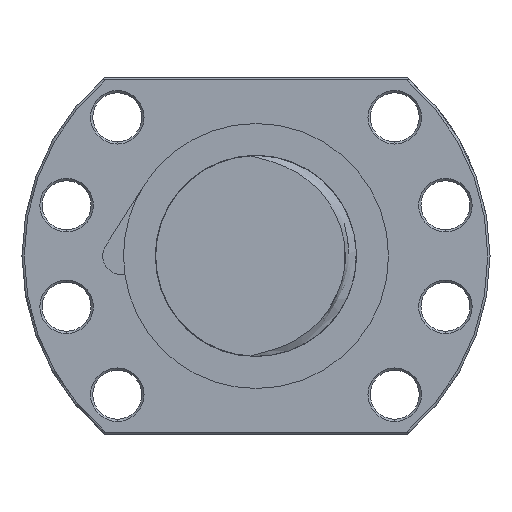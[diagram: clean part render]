
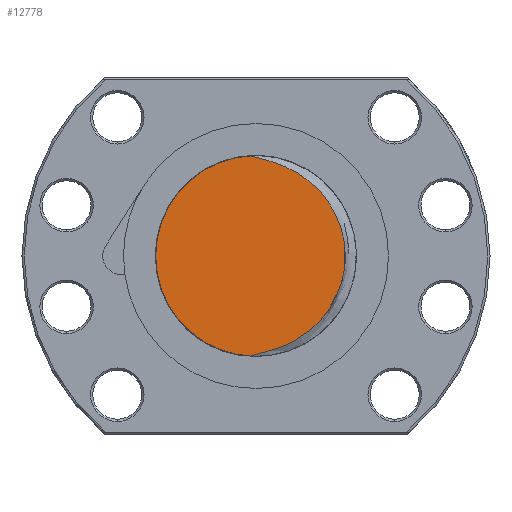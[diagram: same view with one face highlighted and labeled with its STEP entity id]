
A CAD part, left-side view. The second image highlights one B-rep face of the part: STEP entity #12778.
In plain terms, the highlighted planar face has unit normal (-1, 0, 0).
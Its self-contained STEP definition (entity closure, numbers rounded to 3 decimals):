
#12486 = VERTEX_POINT ( 'NONE', #38306 ) ;
#12497 = VERTEX_POINT ( 'NONE', #38284 ) ;
#12499 = EDGE_CURVE ( 'NONE', #12497, #12486, #38231, .T. ) ;
#12608 = ORIENTED_EDGE ( 'NONE', *, *, #12499, .F. ) ;
#12609 = ORIENTED_EDGE ( 'NONE', *, *, #12610, .T. ) ;
#12610 = EDGE_CURVE ( 'NONE', #12497, #12486, #33800, .T. ) ;
#12778 = ADVANCED_FACE ( 'NONE', ( #22958 ), #22953, .F. ) ;
#12779 = EDGE_LOOP ( 'NONE', ( #12608, #12609 ) ) ;
#22949 = DIRECTION ( 'NONE',  ( 0., 0., -1. ) ) ;
#22950 = DIRECTION ( 'NONE',  ( 1., 0., 0. ) ) ;
#22951 = CARTESIAN_POINT ( 'NONE',  ( -234., 0., 0. ) ) ;
#22952 = AXIS2_PLACEMENT_3D ( 'NONE', #22951, #22950, #22949 ) ;
#22953 = PLANE ( 'NONE',  #22952 ) ;
#22958 = FACE_OUTER_BOUND ( 'NONE', #12779, .T. ) ;
#33773 = CARTESIAN_POINT ( 'NONE',  ( -234., -9.307, -18.678 ) ) ;
#33775 = CARTESIAN_POINT ( 'NONE',  ( -234., -8.088, -19.364 ) ) ;
#33777 = CARTESIAN_POINT ( 'NONE',  ( -234., -6.166, -20.244 ) ) ;
#33779 = CARTESIAN_POINT ( 'NONE',  ( -234., -5.508, -20.512 ) ) ;
#33781 = CARTESIAN_POINT ( 'NONE',  ( -234., -4.18, -20.996 ) ) ;
#33783 = CARTESIAN_POINT ( 'NONE',  ( -234., -3.508, -21.212 ) ) ;
#33785 = CARTESIAN_POINT ( 'NONE',  ( -234., -2.153, -21.603 ) ) ;
#33787 = CARTESIAN_POINT ( 'NONE',  ( -234., -1.469, -21.777 ) ) ;
#33789 = CARTESIAN_POINT ( 'NONE',  ( -234., -0.439, -22.026 ) ) ;
#33791 = CARTESIAN_POINT ( 'NONE',  ( -234., -0.096, -22.106 ) ) ;
#33792 = CARTESIAN_POINT ( 'NONE',  ( -234., 0.59, -22.274 ) ) ;
#33794 = CARTESIAN_POINT ( 'NONE',  ( -234., 0.933, -22.359 ) ) ;
#33796 = CARTESIAN_POINT ( 'NONE',  ( -234., 1.269, -22.464 ) ) ;
#33800 = B_SPLINE_CURVE_WITH_KNOTS ( 'NONE', 3,
 ( #33796, #33794, #33792, #33791, #33789, #33787, #33785, #33783, #33781, #33779, #33777, #33775, #33773, #33971, #33969, #33967, #33965, #33964, #33962, #33961, #33959, #33956, #33954, #33952, #33950, #33948, #33946, #33944, #33942, #33940, #33938, #33936, #33934, #33933, #33931, #33929, #33927, #33925, #33923, #33921, #33919, #33917, #33915, #33913, #33911, #33909, #33907, #33905, #33904, #33902, #33900, #33898, #33896, #33894, #33892, #33890, #33888, #33886, #33884, #33882, #33880, #33877, #33876, #34052 ),
 .UNSPECIFIED., .F., .F.,
 ( 4, 2, 2, 2, 2, 2, 2, 2, 2, 2, 2, 2, 2, 2, 2, 2, 2, 2, 2, 2, 2, 2, 2, 2, 2, 2, 2, 2, 2, 2, 2, 4 ),
 ( 0.001, 0.002, 0.003, 0.005, 0.007, 0.009, 0.013, 0.016, 0.018, 0.022, 0.024, 0.025, 0.026, 0.03, 0.031, 0.032, 0.035, 0.039, 0.04, 0.041, 0.043, 0.045, 0.046, 0.047, 0.051, 0.054, 0.056, 0.06, 0.064, 0.066, 0.067, 0.068 ),
 .UNSPECIFIED. ) ;
#33876 = CARTESIAN_POINT ( 'NONE',  ( -234., 0.931, 22.359 ) ) ;
#33877 = CARTESIAN_POINT ( 'NONE',  ( -234., 0.588, 22.273 ) ) ;
#33880 = CARTESIAN_POINT ( 'NONE',  ( -234., -0.1, 22.105 ) ) ;
#33882 = CARTESIAN_POINT ( 'NONE',  ( -234., -0.445, 22.024 ) ) ;
#33884 = CARTESIAN_POINT ( 'NONE',  ( -234., -1.479, 21.774 ) ) ;
#33886 = CARTESIAN_POINT ( 'NONE',  ( -234., -2.165, 21.6 ) ) ;
#33888 = CARTESIAN_POINT ( 'NONE',  ( -234., -4.205, 21.011 ) ) ;
#33890 = CARTESIAN_POINT ( 'NONE',  ( -234., -5.543, 20.529 ) ) ;
#33892 = CARTESIAN_POINT ( 'NONE',  ( -234., -8.098, 19.358 ) ) ;
#33894 = CARTESIAN_POINT ( 'NONE',  ( -234., -9.321, 18.671 ) ) ;
#33896 = CARTESIAN_POINT ( 'NONE',  ( -234., -11.063, 17.469 ) ) ;
#33898 = CARTESIAN_POINT ( 'NONE',  ( -234., -11.63, 17.039 ) ) ;
#33900 = CARTESIAN_POINT ( 'NONE',  ( -234., -12.712, 16.135 ) ) ;
#33902 = CARTESIAN_POINT ( 'NONE',  ( -234., -13.229, 15.661 ) ) ;
#33904 = CARTESIAN_POINT ( 'NONE',  ( -234., -14.708, 14.171 ) ) ;
#33905 = CARTESIAN_POINT ( 'NONE',  ( -234., -15.598, 13.088 ) ) ;
#33907 = CARTESIAN_POINT ( 'NONE',  ( -234., -16.584, 11.617 ) ) ;
#33909 = CARTESIAN_POINT ( 'NONE',  ( -234., -16.774, 11.317 ) ) ;
#33911 = CARTESIAN_POINT ( 'NONE',  ( -234., -17.138, 10.712 ) ) ;
#33913 = CARTESIAN_POINT ( 'NONE',  ( -234., -17.313, 10.406 ) ) ;
#33915 = CARTESIAN_POINT ( 'NONE',  ( -234., -17.811, 9.478 ) ) ;
#33917 = CARTESIAN_POINT ( 'NONE',  ( -234., -18.112, 8.846 ) ) ;
#33919 = CARTESIAN_POINT ( 'NONE',  ( -234., -18.649, 7.556 ) ) ;
#33921 = CARTESIAN_POINT ( 'NONE',  ( -234., -18.887, 6.898 ) ) ;
#33923 = CARTESIAN_POINT ( 'NONE',  ( -234., -19.195, 5.89 ) ) ;
#33925 = CARTESIAN_POINT ( 'NONE',  ( -234., -19.29, 5.551 ) ) ;
#33927 = CARTESIAN_POINT ( 'NONE',  ( -234., -19.463, 4.866 ) ) ;
#33929 = CARTESIAN_POINT ( 'NONE',  ( -234., -19.541, 4.519 ) ) ;
#33931 = CARTESIAN_POINT ( 'NONE',  ( -234., -19.889, 2.783 ) ) ;
#33933 = CARTESIAN_POINT ( 'NONE',  ( -234., -20.026, 1.387 ) ) ;
#33934 = CARTESIAN_POINT ( 'NONE',  ( -234., -20.024, -0.716 ) ) ;
#33936 = CARTESIAN_POINT ( 'NONE',  ( -234., -19.989, -1.418 ) ) ;
#33938 = CARTESIAN_POINT ( 'NONE',  ( -234., -19.883, -2.474 ) ) ;
#33940 = CARTESIAN_POINT ( 'NONE',  ( -234., -19.839, -2.827 ) ) ;
#33942 = CARTESIAN_POINT ( 'NONE',  ( -234., -19.733, -3.527 ) ) ;
#33944 = CARTESIAN_POINT ( 'NONE',  ( -234., -19.672, -3.874 ) ) ;
#33946 = CARTESIAN_POINT ( 'NONE',  ( -234., -19.323, -5.596 ) ) ;
#33948 = CARTESIAN_POINT ( 'NONE',  ( -234., -18.911, -6.933 ) ) ;
#33950 = CARTESIAN_POINT ( 'NONE',  ( -234., -18.232, -8.555 ) ) ;
#33952 = CARTESIAN_POINT ( 'NONE',  ( -234., -18.088, -8.876 ) ) ;
#33954 = CARTESIAN_POINT ( 'NONE',  ( -234., -17.783, -9.515 ) ) ;
#33956 = CARTESIAN_POINT ( 'NONE',  ( -234., -17.622, -9.832 ) ) ;
#33959 = CARTESIAN_POINT ( 'NONE',  ( -234., -17.118, -10.765 ) ) ;
#33961 = CARTESIAN_POINT ( 'NONE',  ( -234., -16.754, -11.366 ) ) ;
#33962 = CARTESIAN_POINT ( 'NONE',  ( -234., -15.582, -13.106 ) ) ;
#33964 = CARTESIAN_POINT ( 'NONE',  ( -234., -14.696, -14.185 ) ) ;
#33965 = CARTESIAN_POINT ( 'NONE',  ( -234., -13.208, -15.682 ) ) ;
#33967 = CARTESIAN_POINT ( 'NONE',  ( -234., -12.682, -16.162 ) ) ;
#33969 = CARTESIAN_POINT ( 'NONE',  ( -234., -11.597, -17.065 ) ) ;
#33971 = CARTESIAN_POINT ( 'NONE',  ( -234., -11.037, -17.488 ) ) ;
#34052 = CARTESIAN_POINT ( 'NONE',  ( -234., 1.269, 22.464 ) ) ;
#38228 = DIRECTION ( 'NONE',  ( 0., 1., 0. ) ) ;
#38229 = DIRECTION ( 'NONE',  ( 1., 0., 0. ) ) ;
#38230 = AXIS2_PLACEMENT_3D ( 'NONE', #38282, #38229, #38228 ) ;
#38231 = CIRCLE ( 'NONE', #38230, 22.5 ) ;
#38282 = CARTESIAN_POINT ( 'NONE',  ( -234., 0., 0. ) ) ;
#38284 = CARTESIAN_POINT ( 'NONE',  ( -234., 1.269, -22.464 ) ) ;
#38306 = CARTESIAN_POINT ( 'NONE',  ( -234., 1.269, 22.464 ) ) ;
